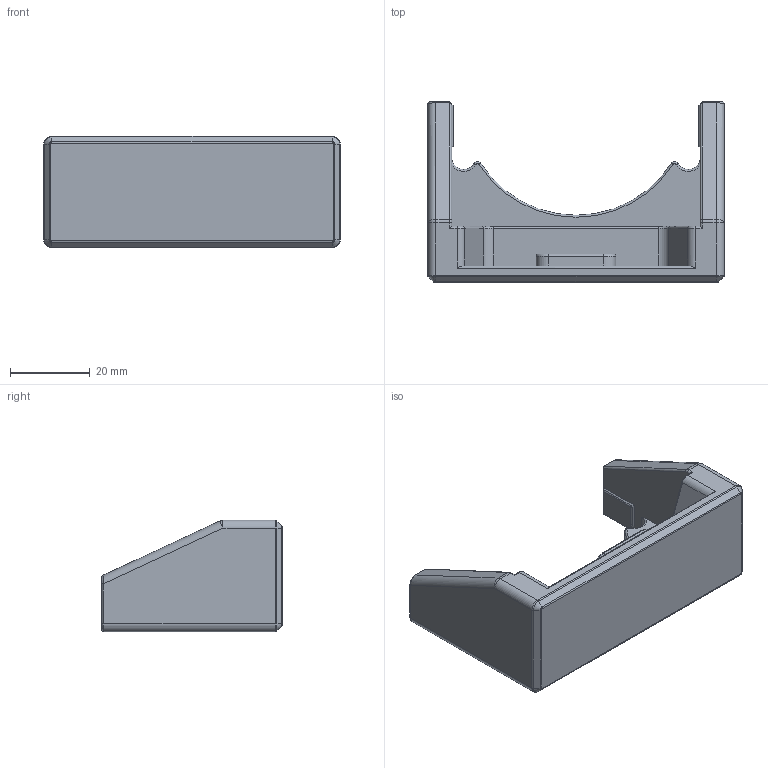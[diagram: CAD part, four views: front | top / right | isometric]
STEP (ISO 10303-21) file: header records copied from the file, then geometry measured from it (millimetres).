
FILE_DESCRIPTION (( 'STEP AP203' ), '1' );
FILE_NAME ('Base Align rev2.STEP', '2025-02-18T18:55:35', ( '' ), ( '' ), 'SwSTEP 2.0', 'SolidWorks 2025', '' );
FILE_SCHEMA (( 'CONFIG_CONTROL_DESIGN' ));
Length unit declared in the file: millimetre
Products named in the file (1): Base Align rev2
Bounding box: 74.44 x 45.33 x 28 mm (x, y, z)
Volume: 32158.2 mm3; surface area: 11329.3 mm2
Topology: 1 solids, 1 shells, 317 faces, 780 edges, 479 vertices
Faces by surface type: plane 119, bspline 74, cylinder 71, torus 30, sphere 17, cone 6
Entity records: 12686 total; most frequent: CARTESIAN_POINT 5616, ORIENTED_EDGE 1550, DIRECTION 1269, EDGE_CURVE 775, VERTEX_POINT 479, VECTOR 437, LINE 437, AXIS2_PLACEMENT_3D 416
